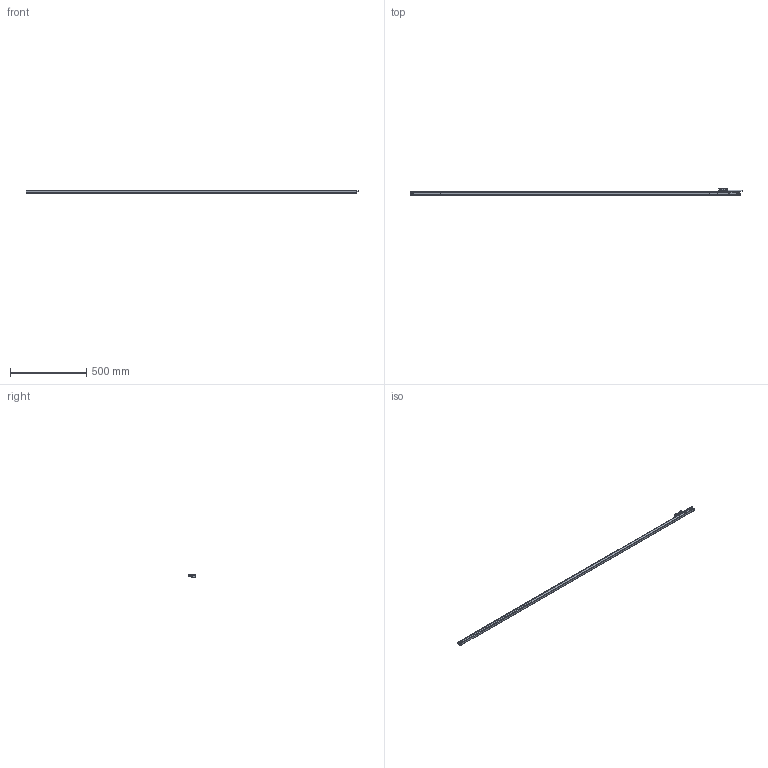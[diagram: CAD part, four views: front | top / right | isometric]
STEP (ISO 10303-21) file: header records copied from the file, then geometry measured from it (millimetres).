
FILE_DESCRIPTION( ( 'STEP AP203' ), '1' );
FILE_NAME( 'N:/Engineering/CAD_Solid/Magnescale/GBER/GB-205ER_SR138-205R.stp', '2013-03-14T10:04:58', ( ' ' ), ( ' ' ), 'XStep 1.0', ' ', ' ' );
FILE_SCHEMA( ( 'CONFIG_CONTROL_DESIGN) ( )' ) );
Length unit declared in the file: metre
Products named in the file (1): 1
Bounding box: 2182.5 x 42 x 21 mm (x, y, z)
Surface area: 207136.1 mm2 (no closed solid volume)
Topology: 0 solids, 344 shells, 344 faces, 1839 edges, 1796 vertices
Faces by surface type: plane 217, cylinder 102, torus 12, cone 11, sphere 1, extrusion 1
Full cylindrical faces by diameter (mm): 2.013 x2, 2.113 x2, 3.242 x2, 4 x8, 4.8 x2, 5 x2, 5.2 x2, 5.8 x2, 6 x1, 9.8 x2, 10 x2
Entity records: 17798 total; most frequent: CARTESIAN_POINT 3961, DIRECTION 2981, ORIENTED_EDGE 1783, EDGE_CURVE 1783, VERTEX_POINT 1783, VECTOR 1269, LINE 1268, AXIS2_PLACEMENT_3D 856
